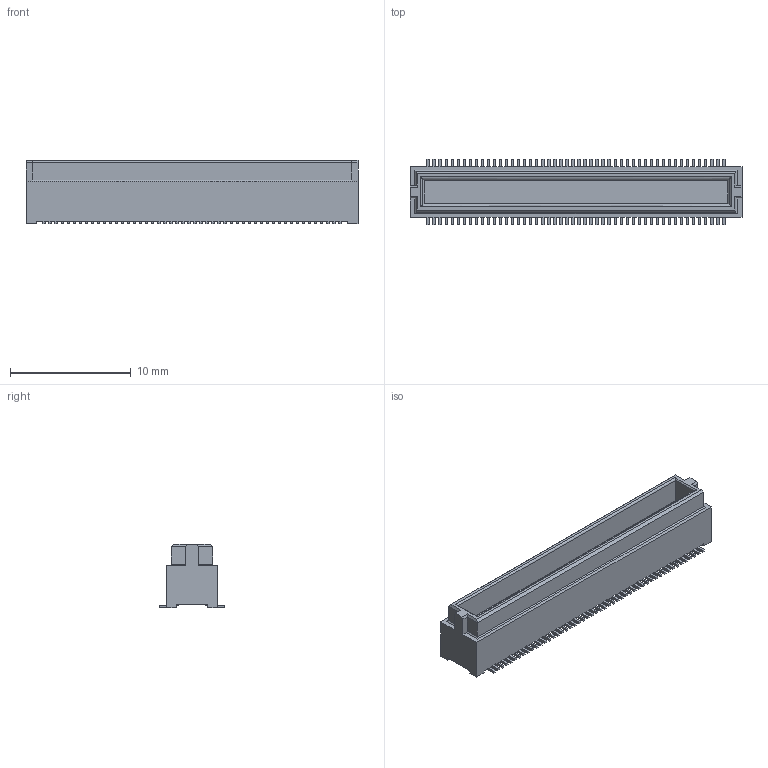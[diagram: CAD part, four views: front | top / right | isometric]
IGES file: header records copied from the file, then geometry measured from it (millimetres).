
Start section: SolidWorks IGES file using analytic representation for surfaces
Global section: file name: N:\Kamikawa_Hisako\★三次元モデル作成依頼\5047\145047XXX470\145047100470.IGS; native system: SolidWorks 2017; preprocessor: SolidWorks 2017; author: HISAKO.KAMIKAWA.FJ; date: 220106.151705; units: millimetre
Bounding box: 27.5 x 5.4 x 5.25 mm (x, y, z)
Surface area: 823.9 mm2 (no closed solid volume)
Topology: 0 solids, 0 shells, 675 faces, 4800 edges, 4600 vertices
Faces by surface type: bspline 573, revolution 102
